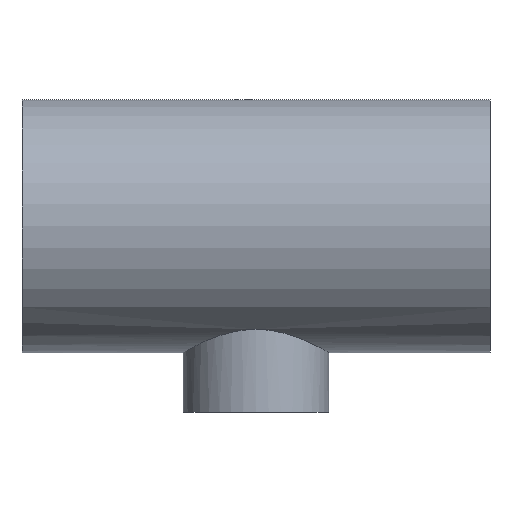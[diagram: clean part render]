
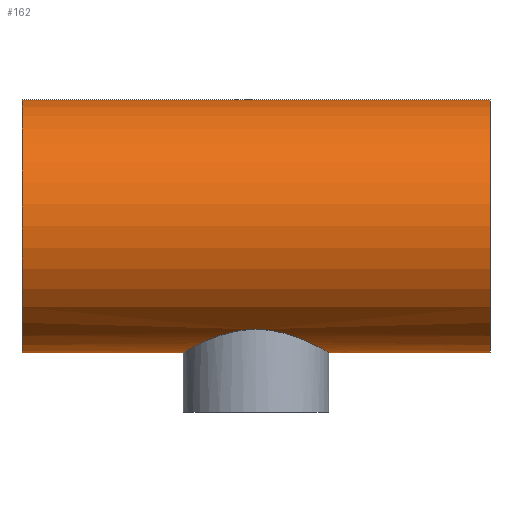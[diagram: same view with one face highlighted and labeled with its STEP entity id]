
A CAD part, top view. The second image highlights one B-rep face of the part: STEP entity #162.
In plain terms, the highlighted cylindrical face has radius 53 mm (diameter 106 mm), a full revolution.
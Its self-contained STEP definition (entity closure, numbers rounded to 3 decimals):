
#16=B_SPLINE_CURVE_WITH_KNOTS('',3,(#344,#345,#346,#347,#348,#349,#350,
#351,#352,#353,#354,#355,#356,#357,#358,#359,#360,#361,#362,#363,#364,#365,
#366,#367,#368,#369,#370,#371,#372,#373,#374,#375,#376,#377,#378,#379,#380,
#381,#382,#383,#384,#385,#386,#387,#388,#389,#390,#391,#392,#393,#394,#395,
#396,#397,#398,#399,#400,#401,#402,#403,#404,#405,#406,#407,#408,#409),
 .UNSPECIFIED.,.T.,.F.,(4,2,2,2,2,2,2,2,2,2,2,2,2,2,2,2,2,2,2,2,2,2,2,2,
2,2,2,2,2,2,2,2,4),(0.,0.592,1.185,1.777,
2.37,2.959,3.548,4.137,4.727,
5.316,5.905,6.495,7.084,7.676,
8.269,8.861,9.454,10.046,10.638,
11.231,11.823,12.412,13.002,13.591,
14.18,14.77,15.359,15.948,16.537,
17.13,17.722,18.315,18.907),
 .UNSPECIFIED.);
#32=FACE_BOUND('',#69,.T.);
#33=FACE_BOUND('',#70,.T.);
#46=FACE_OUTER_BOUND('',#68,.T.);
#68=EDGE_LOOP('',(#136));
#69=EDGE_LOOP('',(#137));
#70=EDGE_LOOP('',(#138));
#88=CIRCLE('',#187,53.);
#89=CIRCLE('',#188,53.);
#101=VERTEX_POINT('',#341);
#102=VERTEX_POINT('',#343);
#103=VERTEX_POINT('',#410);
#115=EDGE_CURVE('',#101,#101,#88,.T.);
#116=EDGE_CURVE('',#102,#102,#16,.T.);
#117=EDGE_CURVE('',#103,#103,#89,.T.);
#136=ORIENTED_EDGE('',*,*,#115,.F.);
#137=ORIENTED_EDGE('',*,*,#116,.T.);
#138=ORIENTED_EDGE('',*,*,#117,.F.);
#152=CYLINDRICAL_SURFACE('',#186,53.);
#162=ADVANCED_FACE('',(#46,#32,#33),#152,.T.);
#186=AXIS2_PLACEMENT_3D('',#340,#230,#231);
#187=AXIS2_PLACEMENT_3D('',#342,#232,#233);
#188=AXIS2_PLACEMENT_3D('',#411,#234,#235);
#230=DIRECTION('center_axis',(1.,0.,0.));
#231=DIRECTION('ref_axis',(0.,-1.,0.));
#232=DIRECTION('center_axis',(-1.,0.,0.));
#233=DIRECTION('ref_axis',(0.,-1.,0.));
#234=DIRECTION('center_axis',(1.,0.,0.));
#235=DIRECTION('ref_axis',(0.,-1.,0.));
#340=CARTESIAN_POINT('Origin',(0.,0.,0.));
#341=CARTESIAN_POINT('',(-98.,53.,0.));
#342=CARTESIAN_POINT('Origin',(-98.,0.,0.));
#343=CARTESIAN_POINT('',(0.,-43.345,30.5));
#344=CARTESIAN_POINT('Ctrl Pts',(0.,-43.345,30.5));
#345=CARTESIAN_POINT('Ctrl Pts',(1.975,-43.345,30.5));
#346=CARTESIAN_POINT('Ctrl Pts',(3.995,-43.484,30.305));
#347=CARTESIAN_POINT('Ctrl Pts',(7.975,-44.028,29.509));
#348=CARTESIAN_POINT('Ctrl Pts',(9.936,-44.432,28.907));
#349=CARTESIAN_POINT('Ctrl Pts',(13.671,-45.414,27.339));
#350=CARTESIAN_POINT('Ctrl Pts',(15.45,-45.99,26.372));
#351=CARTESIAN_POINT('Ctrl Pts',(18.732,-47.194,24.152));
#352=CARTESIAN_POINT('Ctrl Pts',(20.235,-47.82,22.899));
#353=CARTESIAN_POINT('Ctrl Pts',(22.892,-49.004,20.242));
#354=CARTESIAN_POINT('Ctrl Pts',(24.144,-49.606,18.742));
#355=CARTESIAN_POINT('Ctrl Pts',(26.366,-50.725,15.459));
#356=CARTESIAN_POINT('Ctrl Pts',(27.337,-51.241,13.676));
#357=CARTESIAN_POINT('Ctrl Pts',(28.91,-52.097,9.93));
#358=CARTESIAN_POINT('Ctrl Pts',(29.512,-52.437,7.964));
#359=CARTESIAN_POINT('Ctrl Pts',(30.307,-52.888,3.981));
#360=CARTESIAN_POINT('Ctrl Pts',(30.5,-53.,1.964));
#361=CARTESIAN_POINT('Ctrl Pts',(30.5,-53.,-1.964));
#362=CARTESIAN_POINT('Ctrl Pts',(30.307,-52.888,-3.981));
#363=CARTESIAN_POINT('Ctrl Pts',(29.512,-52.437,-7.964));
#364=CARTESIAN_POINT('Ctrl Pts',(28.91,-52.097,-9.93));
#365=CARTESIAN_POINT('Ctrl Pts',(27.337,-51.241,-13.676));
#366=CARTESIAN_POINT('Ctrl Pts',(26.366,-50.725,-15.459));
#367=CARTESIAN_POINT('Ctrl Pts',(24.144,-49.606,-18.742));
#368=CARTESIAN_POINT('Ctrl Pts',(22.892,-49.004,-20.242));
#369=CARTESIAN_POINT('Ctrl Pts',(20.235,-47.82,-22.899));
#370=CARTESIAN_POINT('Ctrl Pts',(18.732,-47.194,-24.152));
#371=CARTESIAN_POINT('Ctrl Pts',(15.45,-45.99,-26.372));
#372=CARTESIAN_POINT('Ctrl Pts',(13.671,-45.414,-27.339));
#373=CARTESIAN_POINT('Ctrl Pts',(9.936,-44.432,-28.907));
#374=CARTESIAN_POINT('Ctrl Pts',(7.975,-44.028,-29.509));
#375=CARTESIAN_POINT('Ctrl Pts',(3.995,-43.484,-30.305));
#376=CARTESIAN_POINT('Ctrl Pts',(1.975,-43.345,-30.5));
#377=CARTESIAN_POINT('Ctrl Pts',(-1.975,-43.345,-30.5));
#378=CARTESIAN_POINT('Ctrl Pts',(-3.995,-43.484,-30.305));
#379=CARTESIAN_POINT('Ctrl Pts',(-7.975,-44.028,-29.509));
#380=CARTESIAN_POINT('Ctrl Pts',(-9.936,-44.432,-28.907));
#381=CARTESIAN_POINT('Ctrl Pts',(-13.671,-45.414,-27.339));
#382=CARTESIAN_POINT('Ctrl Pts',(-15.45,-45.99,-26.372));
#383=CARTESIAN_POINT('Ctrl Pts',(-18.732,-47.194,-24.152));
#384=CARTESIAN_POINT('Ctrl Pts',(-20.235,-47.82,-22.899));
#385=CARTESIAN_POINT('Ctrl Pts',(-22.892,-49.004,-20.242));
#386=CARTESIAN_POINT('Ctrl Pts',(-24.144,-49.606,-18.742));
#387=CARTESIAN_POINT('Ctrl Pts',(-26.366,-50.725,-15.459));
#388=CARTESIAN_POINT('Ctrl Pts',(-27.337,-51.241,-13.676));
#389=CARTESIAN_POINT('Ctrl Pts',(-28.91,-52.097,-9.93));
#390=CARTESIAN_POINT('Ctrl Pts',(-29.512,-52.437,-7.964));
#391=CARTESIAN_POINT('Ctrl Pts',(-30.307,-52.888,-3.981));
#392=CARTESIAN_POINT('Ctrl Pts',(-30.5,-53.,-1.964));
#393=CARTESIAN_POINT('Ctrl Pts',(-30.5,-53.,1.964));
#394=CARTESIAN_POINT('Ctrl Pts',(-30.307,-52.888,3.981));
#395=CARTESIAN_POINT('Ctrl Pts',(-29.512,-52.437,7.964));
#396=CARTESIAN_POINT('Ctrl Pts',(-28.91,-52.097,9.93));
#397=CARTESIAN_POINT('Ctrl Pts',(-27.337,-51.241,13.676));
#398=CARTESIAN_POINT('Ctrl Pts',(-26.366,-50.725,15.459));
#399=CARTESIAN_POINT('Ctrl Pts',(-24.144,-49.606,18.742));
#400=CARTESIAN_POINT('Ctrl Pts',(-22.892,-49.004,20.242));
#401=CARTESIAN_POINT('Ctrl Pts',(-20.235,-47.82,22.899));
#402=CARTESIAN_POINT('Ctrl Pts',(-18.732,-47.194,24.152));
#403=CARTESIAN_POINT('Ctrl Pts',(-15.45,-45.99,26.372));
#404=CARTESIAN_POINT('Ctrl Pts',(-13.671,-45.414,27.339));
#405=CARTESIAN_POINT('Ctrl Pts',(-9.936,-44.432,28.907));
#406=CARTESIAN_POINT('Ctrl Pts',(-7.975,-44.028,29.509));
#407=CARTESIAN_POINT('Ctrl Pts',(-3.995,-43.484,30.305));
#408=CARTESIAN_POINT('Ctrl Pts',(-1.975,-43.345,30.5));
#409=CARTESIAN_POINT('Ctrl Pts',(0.,-43.345,
30.5));
#410=CARTESIAN_POINT('',(98.,53.,0.));
#411=CARTESIAN_POINT('Origin',(98.,0.,0.));
